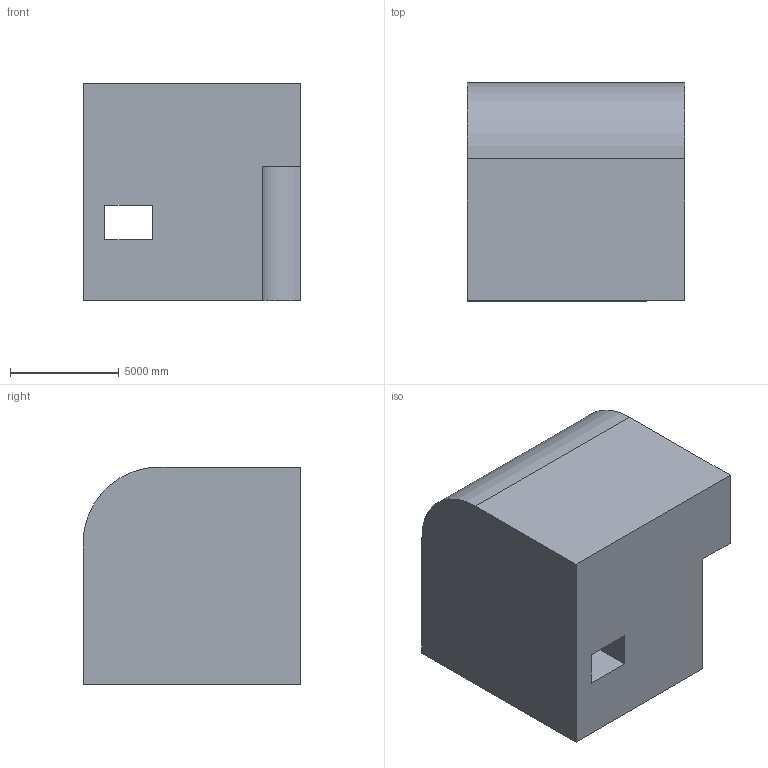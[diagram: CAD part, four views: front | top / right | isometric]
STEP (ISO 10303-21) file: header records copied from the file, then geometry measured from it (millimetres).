
FILE_DESCRIPTION (( 'STEP AP203' ), '1' );
FILE_NAME ('1279.STEP', '2022-08-18T13:32:07', ( 'user' ), ( '' ), 'SwSTEP 2.0', 'SolidWorks 2021', '' );
FILE_SCHEMA (( 'CONFIG_CONTROL_DESIGN' ));
Length unit declared in the file: centimetre
Products named in the file (1): 1279
Bounding box: 10000 x 10000 x 10000 mm (x, y, z)
Volume: 924353804018.1 mm3; surface area: 643412889.8 mm2
Topology: 1 solids, 1 shells, 13 faces, 33 edges, 22 vertices
Faces by surface type: plane 11, cylinder 2
Entity records: 472 total; most frequent: CARTESIAN_POINT 69, ORIENTED_EDGE 66, DIRECTION 65, EDGE_CURVE 33, VECTOR 29, LINE 29, VERTEX_POINT 22, AXIS2_PLACEMENT_3D 18
